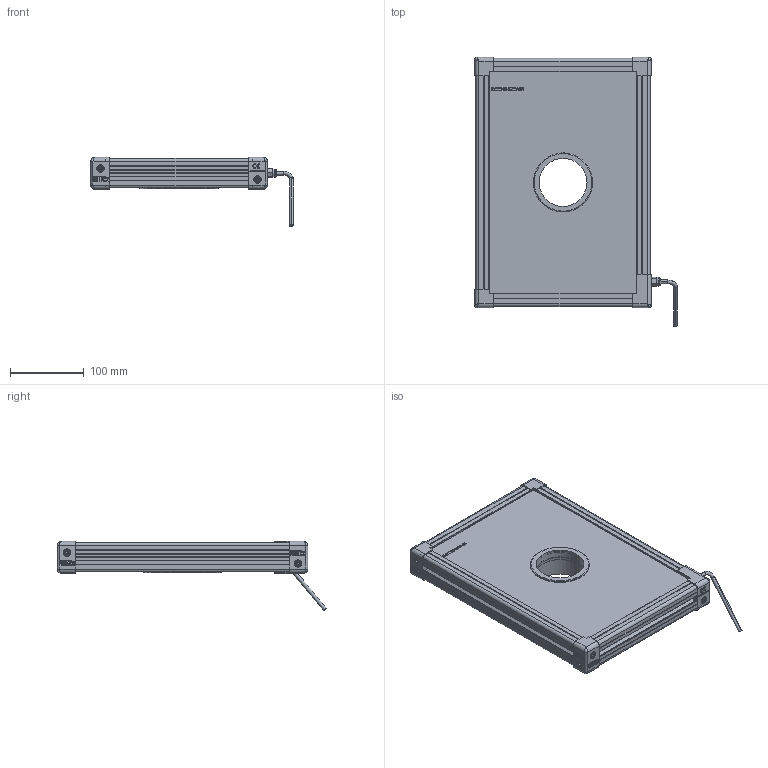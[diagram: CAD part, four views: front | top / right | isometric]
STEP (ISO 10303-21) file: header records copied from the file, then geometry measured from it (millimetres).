
FILE_DESCRIPTION (( 'STEP AP214' ), '1' );
FILE_NAME ('EFFI-FD-200-300-ZZZ-1M12.STEP', '2021-06-23T09:12:52', ( '' ), ( '' ), 'SwSTEP 2.0', 'SolidWorks 2021', '' );
FILE_SCHEMA (( 'AUTOMOTIVE_DESIGN' ));
Length unit declared in the file: millimetre
Products named in the file (13): cordon_Avec cable; Assemblage Ø65; EFFI-FD-200-300-ZZZ-1M12; profile X_PERCE; 004409; Pièce13^EFFI-FD-XXX-YYY-ZZZ (1connecteur) Ø65; petite joue; petite joue + vis; 000629; 000590; grande joue; profile Y_PERCE; 004408
Assembly tree (21 placements, depth 3):
  EFFI-FD-200-300-ZZZ-1M12
    profile X_PERCE  x2
    profile Y_PERCE  x2
    Pièce13^EFFI-FD-XXX-YYY-ZZZ (1connecteur) Ø65
    petite joue + vis  x3
      petite joue
      000629
    000629  x2
    grande joue
    Assemblage Ø65
      004408
      004409
      000590  x3
    cordon_Avec cable
Bounding box: 274.15 x 364.73 x 94.09 mm (x, y, z)
Volume: 2685977 mm3; surface area: 379617.2 mm2
Topology: 22 solids, 28 shells, 3845 faces, 10219 edges, 6706 vertices
Faces by surface type: plane 2372, cylinder 726, bspline 552, cone 152, torus 35, sphere 8
Entity records: 73011 total; most frequent: CARTESIAN_POINT 28463, ORIENTED_EDGE 9328, DIRECTION 7777, EDGE_CURVE 4668, LINE 3489, VECTOR 3489, VERTEX_POINT 3077, AXIS2_PLACEMENT_3D 2144
